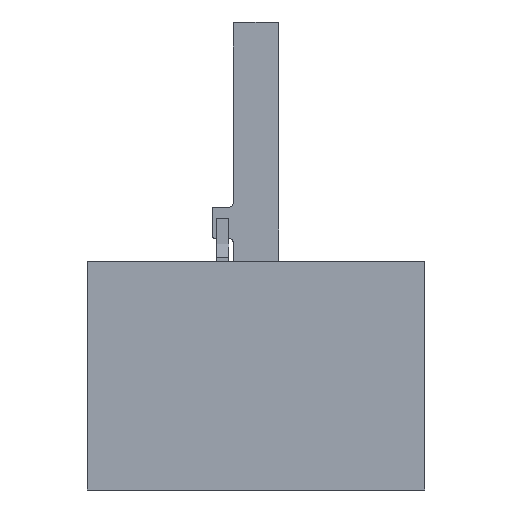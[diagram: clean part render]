
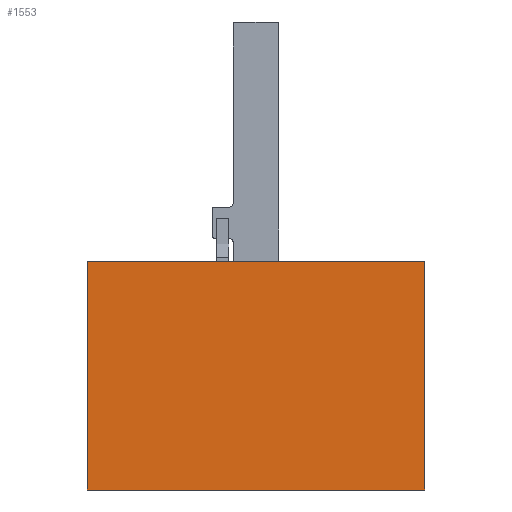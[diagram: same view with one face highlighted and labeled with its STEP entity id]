
A CAD part, front view. The second image highlights one B-rep face of the part: STEP entity #1553.
In plain terms, the highlighted planar face has unit normal (0, -1, 0).
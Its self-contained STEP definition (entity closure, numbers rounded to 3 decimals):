
#29 = CARTESIAN_POINT ( 'NONE',  ( 0., 0., -10. ) ) ;
#34 = CARTESIAN_POINT ( 'NONE',  ( 0., 0., -10. ) ) ;
#137 = VERTEX_POINT ( 'NONE', #216 ) ;
#180 = FACE_OUTER_BOUND ( 'NONE', #2364, .T. ) ;
#216 = CARTESIAN_POINT ( 'NONE',  ( 77.4, 0., -62.4 ) ) ;
#224 = LINE ( 'NONE', #788, #810 ) ;
#271 = DIRECTION ( 'NONE',  ( -1., 0., 0. ) ) ;
#282 = LINE ( 'NONE', #1270, #474 ) ;
#474 = VECTOR ( 'NONE', #271, 1000. ) ;
#608 = VECTOR ( 'NONE', #2083, 1000. ) ;
#625 = LINE ( 'NONE', #1394, #1156 ) ;
#754 = DIRECTION ( 'NONE',  ( 1., 0., 0. ) ) ;
#788 = CARTESIAN_POINT ( 'NONE',  ( 0., 0., -62.4 ) ) ;
#810 = VECTOR ( 'NONE', #1552, 1000. ) ;
#847 = CARTESIAN_POINT ( 'NONE',  ( 77.4, 0., -10. ) ) ;
#862 = EDGE_CURVE ( 'NONE', #137, #976, #282, .T. ) ;
#972 = ORIENTED_EDGE ( 'NONE', *, *, #862, .F. ) ;
#976 = VERTEX_POINT ( 'NONE', #1294 ) ;
#1153 = EDGE_CURVE ( 'NONE', #976, #1650, #224, .T. ) ;
#1156 = VECTOR ( 'NONE', #1971, 1000. ) ;
#1174 = PLANE ( 'NONE',  #1491 ) ;
#1193 = EDGE_CURVE ( 'NONE', #1650, #1396, #1922, .T. ) ;
#1270 = CARTESIAN_POINT ( 'NONE',  ( 77.4, 0., -62.4 ) ) ;
#1294 = CARTESIAN_POINT ( 'NONE',  ( 0., 0., -62.4 ) ) ;
#1394 = CARTESIAN_POINT ( 'NONE',  ( 77.4, 0., -10. ) ) ;
#1396 = VERTEX_POINT ( 'NONE', #847 ) ;
#1491 = AXIS2_PLACEMENT_3D ( 'NONE', #29, #2286, #754 ) ;
#1549 = ORIENTED_EDGE ( 'NONE', *, *, #1193, .F. ) ;
#1552 = DIRECTION ( 'NONE',  ( 0., 0., 1. ) ) ;
#1553 = ADVANCED_FACE ( 'NONE', ( #180 ), #1174, .F. ) ;
#1650 = VERTEX_POINT ( 'NONE', #2270 ) ;
#1719 = ORIENTED_EDGE ( 'NONE', *, *, #1779, .F. ) ;
#1737 = ORIENTED_EDGE ( 'NONE', *, *, #1153, .F. ) ;
#1779 = EDGE_CURVE ( 'NONE', #1396, #137, #625, .T. ) ;
#1922 = LINE ( 'NONE', #34, #608 ) ;
#1971 = DIRECTION ( 'NONE',  ( 0., 0., -1. ) ) ;
#2083 = DIRECTION ( 'NONE',  ( 1., 0., 0. ) ) ;
#2270 = CARTESIAN_POINT ( 'NONE',  ( 0., 0., -10. ) ) ;
#2286 = DIRECTION ( 'NONE',  ( 0., 1., 0. ) ) ;
#2364 = EDGE_LOOP ( 'NONE', ( #1737, #972, #1719, #1549 ) ) ;
